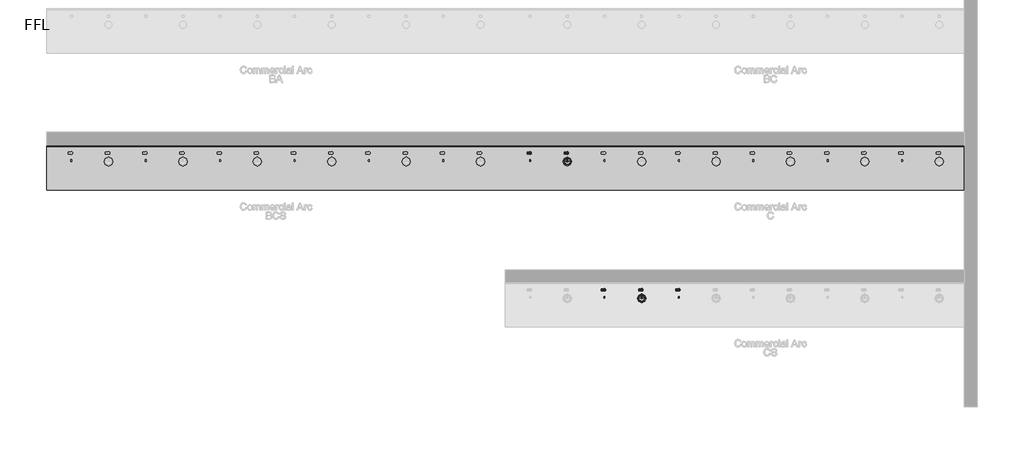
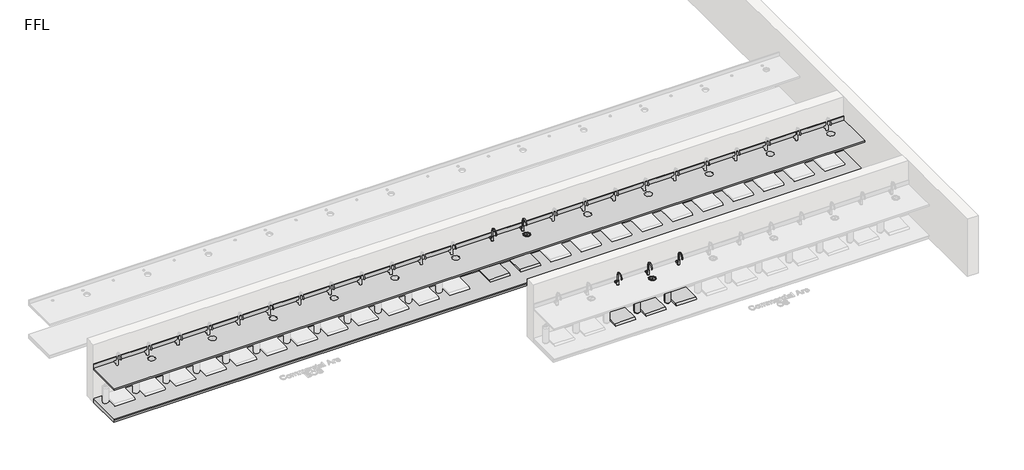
# One storey, part 2 of 10: 19 flow terminals, 2 furniture elements.
"""IFC4 building model written with IfcOpenShell, lengths in millimetres."""

from ifc_helpers import new_model, si_unit, frame, origin, place, context, project, spatial, polyline, circle_curve, transform, mapped, element, save
from ifc_brep_helpers import plane_surface, revolved_surface, advanced_brep
from components import flow_terminal_100_people_nickel_19c471c0, bright_chrome_743c02cf, bright_chrome_7ff5033f, co2_gas_cylinder_20234e14, bcs_and_bc_6de74493, generic_plinth_900mm_f287d53f

model = new_model("IFC4")

# Units and contexts
model_context = context("Model", 3, world=origin())
ifc_project = project(units=[si_unit("LENGTHUNIT", "METRE", prefix="MILLI")], contexts=[model_context])

# Site, building, storey
site = spatial("IfcSite", under=ifc_project)
building = spatial("IfcBuilding", under=site)
storey = spatial("IfcBuildingStorey", under=building, Name="FFL", Elevation=0.0)

# Flow terminals
placement = place(None, origin())
flow_terminal_100_people_nickel_shape = flow_terminal_100_people_nickel_19c471c0(model_context)
element("IfcFlowTerminal", 1, ObjectType="PlumFixt_Zip Commercial_Arc_CS : 100 People - Brushed Gold", at=placement, inside=storey, context=model_context, shape_type="MappedRepresentation", body=[
    mapped(flow_terminal_100_people_nickel_shape, transform((4279.2647071, -3457.2606696, 0.0), x_axis=(1.0, 0.0, 0.0), y_axis=(0.0, 1.0, 0.0), z_axis=(0.0, 0.0, 1.0))),
])
element("IfcFlowTerminal", 2, ObjectType="PlumFixt_Zip Commercial_Arc_CS : 100 People - Brushed Nickel", at=placement, inside=storey, context=model_context, shape_type="MappedRepresentation", body=[
    mapped(flow_terminal_100_people_nickel_shape, transform((5029.2647071, -3457.2606696, 0.0), x_axis=(1.0, 0.0, 0.0), y_axis=(0.0, 1.0, 0.0), z_axis=(0.0, 0.0, 1.0))),
])
element("IfcFlowTerminal", 3, ObjectType="PlumFixt_Zip Commercial_Arc_CS : 100 People - Brushed Rose Gold", at=placement, inside=storey, context=model_context, shape_type="MappedRepresentation", body=[
    mapped(flow_terminal_100_people_nickel_shape, transform((5779.2647071, -3457.2606696, 0.0), x_axis=(1.0, 0.0, 0.0), y_axis=(0.0, 1.0, 0.0), z_axis=(0.0, 0.0, 1.0))),
])
element("IfcFlowTerminal", 4, ObjectType="PlumFixt_Zip Commercial_Arc_C : 40 People - Bright Chrome", at=placement, inside=storey, context=model_context, shape_type="MappedRepresentation", body=[
    mapped(flow_terminal_100_people_nickel_shape, transform((2779.2647071, -697.2606696, 0.0), x_axis=(1.0, 0.0, 0.0), y_axis=(0.0, 1.0, 0.0), z_axis=(0.0, 0.0, 1.0))),
])
element("IfcFlowTerminal", 5, ObjectType="PlumFixt_Zip Commercial_Arc_C : 40 People - Brushed Chrome", at=placement, inside=storey, context=model_context, shape_type="MappedRepresentation", body=[
    mapped(flow_terminal_100_people_nickel_shape, transform((3529.2647071, -697.2606696, 0.0), x_axis=(1.0, 0.0, 0.0), y_axis=(0.0, 1.0, 0.0), z_axis=(0.0, 0.0, 1.0))),
])
bright_chrome_shape = bright_chrome_743c02cf(model_context)
element("IfcFlowTerminal", 6, ObjectType="z_PlumFixt_Zip_Font : Bright Chrome", at=placement, inside=storey, context=model_context, shape_type="MappedRepresentation", body=[
    mapped(bright_chrome_shape, transform((5029.2647071, -3528.7606696, 900.0), x_axis=(1.0000000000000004, 0.0, 0.0), y_axis=(0.0, 1.0000000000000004, 0.0), z_axis=(0.0, 0.0, 1.0))),
])
element("IfcFlowTerminal", 7, ObjectType="z_PlumFixt_Zip_Font : Bright Chrome", at=placement, inside=storey, context=model_context, shape_type="MappedRepresentation", body=[
    mapped(bright_chrome_shape, transform((3529.2647071, -768.7606696, 900.0), x_axis=(1.0000000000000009, 0.0, 0.0), y_axis=(0.0, 1.0000000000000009, 0.0), z_axis=(0.0, 0.0, 1.0))),
])
bright_chrome_2_shape = bright_chrome_7ff5033f(model_context)
element("IfcFlowTerminal", 8, ObjectType="z_PlumFixt_Zip_Arc : Brushed Gold", at=placement, inside=storey, context=model_context, shape_type="MappedRepresentation", body=[
    mapped(bright_chrome_2_shape, transform((4262.2647071, -3429.2606696, 900.0), x_axis=(1.0000000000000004, 0.0, 0.0), y_axis=(0.0, 1.0000000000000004, 0.0), z_axis=(0.0, 0.0, 1.0))),
])
element("IfcFlowTerminal", 9, ObjectType="z_PlumFixt_Zip_Arc : Brushed Nickel", at=placement, inside=storey, context=model_context, shape_type="MappedRepresentation", body=[
    mapped(bright_chrome_2_shape, transform((5012.2647071, -3429.2606696, 900.0), x_axis=(1.0000000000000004, 0.0, 0.0), y_axis=(0.0, 1.0000000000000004, 0.0), z_axis=(0.0, 0.0, 1.0))),
])
element("IfcFlowTerminal", 10, ObjectType="z_PlumFixt_Zip_Arc : Brushed Rose Gold", at=placement, inside=storey, context=model_context, shape_type="MappedRepresentation", body=[
    mapped(bright_chrome_2_shape, transform((5762.2647071, -3429.2606696, 900.0), x_axis=(1.0000000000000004, 0.0, 0.0), y_axis=(0.0, 1.0000000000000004, 0.0), z_axis=(0.0, 0.0, 1.0))),
])
co2_gas_cylinder_shape = co2_gas_cylinder_20234e14(model_context)
element("IfcFlowTerminal", 11, ObjectType="z_PlumFixt_Zip_CO2 Gas Cylinder : CO2 Gas Cylinder", at=placement, inside=storey, context=model_context, shape_type="MappedRepresentation", body=[
    mapped(co2_gas_cylinder_shape, transform((4691.2647071, -3536.7606696, 100.0), x_axis=(-1.0, 0.0, 0.0), y_axis=(0.0, -1.0, 0.0), z_axis=(0.0, 0.0, 1.0))),
])
element("IfcFlowTerminal", 12, ObjectType="z_PlumFixt_Zip_CO2 Gas Cylinder : CO2 Gas Cylinder", at=placement, inside=storey, context=model_context, shape_type="MappedRepresentation", body=[
    mapped(co2_gas_cylinder_shape, transform((5441.2647071, -3536.7606696, 100.0), x_axis=(-1.0, 0.0, 0.0), y_axis=(0.0, -1.0, 0.0), z_axis=(0.0, 0.0, 1.0))),
])
bcs_and_bc_shape = bcs_and_bc_6de74493(model_context)
element("IfcFlowTerminal", 13, ObjectType="z_PlumFixt_Zip_Vent Tray : CS and C", at=placement, inside=storey, context=model_context, shape_type="MappedRepresentation", body=[
    mapped(bcs_and_bc_shape, transform((2779.2647071, -574.2606696, 100.0), x_axis=(1.0, 0.0, 0.0), y_axis=(0.0, 1.0, 0.0), z_axis=(0.0, 0.0, 1.0))),
])
element("IfcFlowTerminal", 14, ObjectType="z_PlumFixt_Zip_Vent Tray : CS and C", at=placement, inside=storey, context=model_context, shape_type="MappedRepresentation", body=[
    mapped(bcs_and_bc_shape, transform((3529.2647071, -574.2606696, 100.0), x_axis=(1.0, 0.0, 0.0), y_axis=(0.0, 1.0, 0.0), z_axis=(0.0, 0.0, 1.0))),
])
element("IfcFlowTerminal", 15, ObjectType="z_PlumFixt_Zip_Vent Tray : CS and C", at=placement, inside=storey, context=model_context, shape_type="MappedRepresentation", body=[
    mapped(bcs_and_bc_shape, transform((4279.2647071, -3334.2606696, 100.0), x_axis=(1.0, 0.0, 0.0), y_axis=(0.0, 1.0, 0.0), z_axis=(0.0, 0.0, 1.0))),
])
element("IfcFlowTerminal", 16, ObjectType="z_PlumFixt_Zip_Vent Tray : CS and C", at=placement, inside=storey, context=model_context, shape_type="MappedRepresentation", body=[
    mapped(bcs_and_bc_shape, transform((5029.2647071, -3334.2606696, 100.0), x_axis=(1.0, 0.0, 0.0), y_axis=(0.0, 1.0, 0.0), z_axis=(0.0, 0.0, 1.0))),
])
element("IfcFlowTerminal", 17, ObjectType="z_PlumFixt_Zip_Vent Tray : CS and C", at=placement, inside=storey, context=model_context, shape_type="MappedRepresentation", body=[
    mapped(bcs_and_bc_shape, transform((5779.2647071, -3334.2606696, 100.0), x_axis=(1.0, 0.0, 0.0), y_axis=(0.0, 1.0, 0.0), z_axis=(0.0, 0.0, 1.0))),
])
element("IfcFlowTerminal", 18, ObjectType="z_PlumFixt_Zip_Arc : Gunmetal", at=placement, inside=storey, context=model_context, shape_type="MappedRepresentation", body=[
    mapped(bright_chrome_2_shape, transform((3512.2647071, -669.2606696, 900.0), x_axis=(1.0000000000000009, 0.0, 0.0), y_axis=(0.0, 1.0000000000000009, 0.0), z_axis=(0.0, 0.0, 1.0))),
])
element("IfcFlowTerminal", 19, ObjectType="z_PlumFixt_Zip_Arc : Gunmetal", at=placement, inside=storey, context=model_context, shape_type="MappedRepresentation", body=[
    mapped(bright_chrome_2_shape, transform((2762.2647071, -669.2606696, 900.0), x_axis=(1.0000000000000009, 0.0, 0.0), y_axis=(0.0, 1.0000000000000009, 0.0), z_axis=(0.0, 0.0, 1.0))),
])

# Furniture
element("IfcFurniture", 20, ObjectType="Counter Top : 900mm Depth", at=placement, inside=storey, context=model_context, shape_type="AdvancedBrep", body=[
    advanced_brep(
    [(-6969.7352929, -1331.7606696, 900.0), (11530.2647071, -1331.7606696, 900.0), (11530.2647071, -450.8106696, 900.0), (-6969.7352929, -450.8106696, 900.0), (-6493.7352929, -581.7606696, 900.0), (-6445.7352929, -581.7606696, 900.0), (2756.2647071, -581.7606696, 900.0), (2804.2647071, -581.7606696, 900.0), (-5743.7352929, -581.7606696, 900.0), (-5695.7352929, -581.7606696, 900.0), (-5651.5352929, -753.7503538, 900.0), (-5787.9352929, -753.7503538, 900.0), (-4993.7352929, -581.7606696, 900.0), (-4945.7352929, -581.7606696, 900.0), (-4243.7352929, -581.7606696, 900.0), (-4195.7352929, -581.7606696, 900.0), (-4151.5352929, -753.7503538, 900.0), (-4287.9352929, -753.7503538, 900.0), (-3493.7352929, -581.7606696, 900.0), (-3445.7352929, -581.7606696, 900.0), (-2743.7352929, -581.7606696, 900.0), (-2695.7352929, -581.7606696, 900.0), (-2651.5352929, -753.7503538, 900.0), (-2787.9352929, -753.7503538, 900.0), (-1993.7352929, -581.7606696, 900.0), (-1945.7352929, -581.7606696, 900.0), (-1243.7352929, -581.7606696, 900.0), (-1195.7352929, -581.7606696, 900.0), (-1151.5352929, -753.7503538, 900.0), (-1287.9352929, -753.7503538, 900.0), (-493.7352929, -581.7606696, 900.0), (-445.7352929, -581.7606696, 900.0), (256.2647071, -581.7606696, 900.0), (304.2647071, -581.7606696, 900.0), (348.4647071, -753.7503538, 900.0), (212.0647071, -753.7503538, 900.0), (1006.2647071, -581.7606696, 900.0), (1054.2647071, -581.7606696, 900.0), (1756.2647071, -581.7606696, 900.0), (1804.2647071, -581.7606696, 900.0), (1848.4647071, -753.7503538, 900.0), (1712.0647071, -753.7503538, 900.0), (3506.2647071, -581.7606696, 900.0), (3554.2647071, -581.7606696, 900.0), (3598.4647071, -753.7503538, 900.0), (3462.0647071, -753.7503538, 900.0), (4256.2647071, -581.7606696, 900.0), (4304.2647071, -581.7606696, 900.0), (5006.2647071, -581.7606696, 900.0), (5054.2647071, -581.7606696, 900.0), (5098.4647071, -753.7503538, 900.0), (4962.0647071, -753.7503538, 900.0), (5756.2647071, -581.7606696, 900.0), (5804.2647071, -581.7606696, 900.0), (6506.2647071, -581.7606696, 900.0), (6554.2647071, -581.7606696, 900.0), (6598.4647071, -753.7503538, 900.0), (6462.0647071, -753.7503538, 900.0), (7256.2647071, -581.7606696, 900.0), (7304.2647071, -581.7606696, 900.0), (8006.2647071, -581.7606696, 900.0), (8054.2647071, -581.7606696, 900.0), (8098.4647071, -753.7503538, 900.0), (7962.0647071, -753.7503538, 900.0), (8756.2647071, -581.7606696, 900.0), (8804.2647071, -581.7606696, 900.0), (9506.2647071, -581.7606696, 900.0), (9554.2647071, -581.7606696, 900.0), (9598.4647071, -753.7503538, 900.0), (9462.0647071, -753.7503538, 900.0), (10256.2647071, -581.7606696, 900.0), (10304.2647071, -581.7606696, 900.0), (11006.2647071, -581.7606696, 900.0), (11054.2647071, -581.7606696, 900.0), (11098.4647071, -753.7503538, 900.0), (10962.0647071, -753.7503538, 900.0), (11530.2647071, -431.7606696, 860.0), (11530.2647071, -1331.7606696, 860.0), (-6969.7352929, -1331.7606696, 860.0), (-6969.7352929, -431.7606696, 860.0), (-6445.7352929, -581.7606696, 860.0), (-6493.7352929, -581.7606696, 860.0), (2804.2647071, -581.7606696, 860.0), (2756.2647071, -581.7606696, 860.0), (-5695.7352929, -581.7606696, 860.0), (-5743.7352929, -581.7606696, 860.0), (-5787.9352929, -753.7503538, 860.0), (-5651.5352929, -753.7503538, 860.0), (-4945.7352929, -581.7606696, 860.0), (-4993.7352929, -581.7606696, 860.0), (-4195.7352929, -581.7606696, 860.0), (-4243.7352929, -581.7606696, 860.0), (-4287.9352929, -753.7503538, 860.0), (-4151.5352929, -753.7503538, 860.0), (-3445.7352929, -581.7606696, 860.0), (-3493.7352929, -581.7606696, 860.0), (-2695.7352929, -581.7606696, 860.0), (-2743.7352929, -581.7606696, 860.0), (-2787.9352929, -753.7503538, 860.0), (-2651.5352929, -753.7503538, 860.0), (-1945.7352929, -581.7606696, 860.0), (-1993.7352929, -581.7606696, 860.0), (-1195.7352929, -581.7606696, 860.0), (-1243.7352929, -581.7606696, 860.0), (-1287.9352929, -753.7503538, 860.0), (-1151.5352929, -753.7503538, 860.0), (-445.7352929, -581.7606696, 860.0), (-493.7352929, -581.7606696, 860.0), (304.2647071, -581.7606696, 860.0), (256.2647071, -581.7606696, 860.0), (212.0647071, -753.7503538, 860.0), (348.4647071, -753.7503538, 860.0), (1054.2647071, -581.7606696, 860.0), (1006.2647071, -581.7606696, 860.0), (1804.2647071, -581.7606696, 860.0), (1756.2647071, -581.7606696, 860.0), (1712.0647071, -753.7503538, 860.0), (1848.4647071, -753.7503538, 860.0), (3554.2647071, -581.7606696, 860.0), (3506.2647071, -581.7606696, 860.0), (3462.0647071, -753.7503538, 860.0), (3598.4647071, -753.7503538, 860.0), (4304.2647071, -581.7606696, 860.0), (4256.2647071, -581.7606696, 860.0), (5054.2647071, -581.7606696, 860.0), (5006.2647071, -581.7606696, 860.0), (4962.0647071, -753.7503538, 860.0), (5098.4647071, -753.7503538, 860.0), (5804.2647071, -581.7606696, 860.0), (5756.2647071, -581.7606696, 860.0), (6554.2647071, -581.7606696, 860.0), (6506.2647071, -581.7606696, 860.0), (6462.0647071, -753.7503538, 860.0), (6598.4647071, -753.7503538, 860.0), (7304.2647071, -581.7606696, 860.0), (7256.2647071, -581.7606696, 860.0), (8054.2647071, -581.7606696, 860.0), (8006.2647071, -581.7606696, 860.0), (7962.0647071, -753.7503538, 860.0), (8098.4647071, -753.7503538, 860.0), (8804.2647071, -581.7606696, 860.0), (8756.2647071, -581.7606696, 860.0), (9554.2647071, -581.7606696, 860.0), (9506.2647071, -581.7606696, 860.0), (9462.0647071, -753.7503538, 860.0), (9598.4647071, -753.7503538, 860.0), (10304.2647071, -581.7606696, 860.0), (10256.2647071, -581.7606696, 860.0), (11054.2647071, -581.7606696, 860.0), (11006.2647071, -581.7606696, 860.0), (10962.0647071, -753.7503538, 860.0), (11098.4647071, -753.7503538, 860.0), (-6969.7352929, -431.7606696, 1001.6), (11530.2647071, -431.7606696, 1001.6), (-6969.7352929, -450.8106696, 1001.6), (11530.2647071, -450.8106696, 1001.6)],
    [
        (0, 1),
        (1, 2),
        (2, 3),
        (3, 0),
        (4, 5, circle_curve(frame((-6469.7352929, -581.7606696, 900.0), z_axis=(0.0, 0.0, -1.0), x_axis=(-1.0000000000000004, 0.0, 0.0)), 24.0)),
        (5, 4, circle_curve(frame((-6469.7352929, -581.7606696, 900.0), z_axis=(0.0, 0.0, -1.0), x_axis=(-1.0000000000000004, 0.0, 0.0)), 24.0)),
        (6, 7, circle_curve(frame((2780.2647071, -581.7606696, 900.0), z_axis=(0.0, 0.0, -1.0), x_axis=(-1.0000000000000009, 0.0, 0.0)), 24.0)),
        (7, 6, circle_curve(frame((2780.2647071, -581.7606696, 900.0), z_axis=(0.0, 0.0, -1.0), x_axis=(-1.0000000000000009, 0.0, 0.0)), 24.0)),
        (8, 9, circle_curve(frame((-5719.7352929, -581.7606696, 900.0), z_axis=(0.0, 0.0, -1.0), x_axis=(-1.0000000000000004, 0.0, 0.0)), 24.0)),
        (9, 8, circle_curve(frame((-5719.7352929, -581.7606696, 900.0), z_axis=(0.0, 0.0, -1.0), x_axis=(-1.0000000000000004, 0.0, 0.0)), 24.0)),
        (10, 11, circle_curve(frame((-5719.7352929, -753.7503538, 900.0), z_axis=(0.0, 0.0, -1.0), x_axis=(-1.0000000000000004, 0.0, 0.0)), 68.2)),
        (11, 10, circle_curve(frame((-5719.7352929, -753.7503538, 900.0), z_axis=(0.0, 0.0, -1.0), x_axis=(-1.0000000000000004, 0.0, 0.0)), 68.2)),
        (12, 13, circle_curve(frame((-4969.7352929, -581.7606696, 900.0), z_axis=(0.0, 0.0, -1.0), x_axis=(-1.0000000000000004, 0.0, 0.0)), 24.0)),
        (13, 12, circle_curve(frame((-4969.7352929, -581.7606696, 900.0), z_axis=(0.0, 0.0, -1.0), x_axis=(-1.0000000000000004, 0.0, 0.0)), 24.0)),
        (14, 15, circle_curve(frame((-4219.7352929, -581.7606696, 900.0), z_axis=(0.0, 0.0, -1.0), x_axis=(-1.0000000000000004, 0.0, 0.0)), 24.0)),
        (15, 14, circle_curve(frame((-4219.7352929, -581.7606696, 900.0), z_axis=(0.0, 0.0, -1.0), x_axis=(-1.0000000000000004, 0.0, 0.0)), 24.0)),
        (16, 17, circle_curve(frame((-4219.7352929, -753.7503538, 900.0), z_axis=(0.0, 0.0, -1.0), x_axis=(-1.0000000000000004, 0.0, 0.0)), 68.2)),
        (17, 16, circle_curve(frame((-4219.7352929, -753.7503538, 900.0), z_axis=(0.0, 0.0, -1.0), x_axis=(-1.0000000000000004, 0.0, 0.0)), 68.2)),
        (18, 19, circle_curve(frame((-3469.7352929, -581.7606696, 900.0), z_axis=(0.0, 0.0, -1.0), x_axis=(-1.0000000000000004, 0.0, 0.0)), 24.0)),
        (19, 18, circle_curve(frame((-3469.7352929, -581.7606696, 900.0), z_axis=(0.0, 0.0, -1.0), x_axis=(-1.0000000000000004, 0.0, 0.0)), 24.0)),
        (20, 21, circle_curve(frame((-2719.7352929, -581.7606696, 900.0), z_axis=(0.0, 0.0, -1.0), x_axis=(-1.0000000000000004, 0.0, 0.0)), 24.0)),
        (21, 20, circle_curve(frame((-2719.7352929, -581.7606696, 900.0), z_axis=(0.0, 0.0, -1.0), x_axis=(-1.0000000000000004, 0.0, 0.0)), 24.0)),
        (22, 23, circle_curve(frame((-2719.7352929, -753.7503538, 900.0), z_axis=(0.0, 0.0, -1.0), x_axis=(-1.0000000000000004, 0.0, 0.0)), 68.2)),
        (23, 22, circle_curve(frame((-2719.7352929, -753.7503538, 900.0), z_axis=(0.0, 0.0, -1.0), x_axis=(-1.0000000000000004, 0.0, 0.0)), 68.2)),
        (24, 25, circle_curve(frame((-1969.7352929, -581.7606696, 900.0), z_axis=(0.0, 0.0, -1.0), x_axis=(-1.0000000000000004, 0.0, 0.0)), 24.0)),
        (25, 24, circle_curve(frame((-1969.7352929, -581.7606696, 900.0), z_axis=(0.0, 0.0, -1.0), x_axis=(-1.0000000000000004, 0.0, 0.0)), 24.0)),
        (26, 27, circle_curve(frame((-1219.7352929, -581.7606696, 900.0), z_axis=(0.0, 0.0, -1.0), x_axis=(-1.0000000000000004, 0.0, 0.0)), 24.0)),
        (27, 26, circle_curve(frame((-1219.7352929, -581.7606696, 900.0), z_axis=(0.0, 0.0, -1.0), x_axis=(-1.0000000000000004, 0.0, 0.0)), 24.0)),
        (28, 29, circle_curve(frame((-1219.7352929, -753.7503538, 900.0), z_axis=(0.0, 0.0, -1.0), x_axis=(-1.0000000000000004, 0.0, 0.0)), 68.2)),
        (29, 28, circle_curve(frame((-1219.7352929, -753.7503538, 900.0), z_axis=(0.0, 0.0, -1.0), x_axis=(-1.0000000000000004, 0.0, 0.0)), 68.2)),
        (30, 31, circle_curve(frame((-469.7352929, -581.7606696, 900.0), z_axis=(0.0, 0.0, -1.0), x_axis=(-1.0000000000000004, 0.0, 0.0)), 24.0)),
        (31, 30, circle_curve(frame((-469.7352929, -581.7606696, 900.0), z_axis=(0.0, 0.0, -1.0), x_axis=(-1.0000000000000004, 0.0, 0.0)), 24.0)),
        (32, 33, circle_curve(frame((280.2647071, -581.7606696, 900.0), z_axis=(0.0, 0.0, -1.0), x_axis=(-1.0000000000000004, 0.0, 0.0)), 24.0)),
        (33, 32, circle_curve(frame((280.2647071, -581.7606696, 900.0), z_axis=(0.0, 0.0, -1.0), x_axis=(-1.0000000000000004, 0.0, 0.0)), 24.0)),
        (34, 35, circle_curve(frame((280.2647071, -753.7503538, 900.0), z_axis=(0.0, 0.0, -1.0), x_axis=(-1.0000000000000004, 0.0, 0.0)), 68.2)),
        (35, 34, circle_curve(frame((280.2647071, -753.7503538, 900.0), z_axis=(0.0, 0.0, -1.0), x_axis=(-1.0000000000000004, 0.0, 0.0)), 68.2)),
        (36, 37, circle_curve(frame((1030.2647071, -581.7606696, 900.0), z_axis=(0.0, 0.0, -1.0), x_axis=(-1.0000000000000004, 0.0, 0.0)), 24.0)),
        (37, 36, circle_curve(frame((1030.2647071, -581.7606696, 900.0), z_axis=(0.0, 0.0, -1.0), x_axis=(-1.0000000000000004, 0.0, 0.0)), 24.0)),
        (38, 39, circle_curve(frame((1780.2647071, -581.7606696, 900.0), z_axis=(0.0, 0.0, -1.0), x_axis=(-1.0000000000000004, 0.0, 0.0)), 24.0)),
        (39, 38, circle_curve(frame((1780.2647071, -581.7606696, 900.0), z_axis=(0.0, 0.0, -1.0), x_axis=(-1.0000000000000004, 0.0, 0.0)), 24.0)),
        (40, 41, circle_curve(frame((1780.2647071, -753.7503538, 900.0), z_axis=(0.0, 0.0, -1.0), x_axis=(-1.0000000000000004, 0.0, 0.0)), 68.2)),
        (41, 40, circle_curve(frame((1780.2647071, -753.7503538, 900.0), z_axis=(0.0, 0.0, -1.0), x_axis=(-1.0000000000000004, 0.0, 0.0)), 68.2)),
        (42, 43, circle_curve(frame((3530.2647071, -581.7606696, 900.0), z_axis=(0.0, 0.0, -1.0), x_axis=(-1.0000000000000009, 0.0, 0.0)), 24.0)),
        (43, 42, circle_curve(frame((3530.2647071, -581.7606696, 900.0), z_axis=(0.0, 0.0, -1.0), x_axis=(-1.0000000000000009, 0.0, 0.0)), 24.0)),
        (44, 45, circle_curve(frame((3530.2647071, -753.7503538, 900.0), z_axis=(0.0, 0.0, -1.0), x_axis=(-1.0000000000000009, 0.0, 0.0)), 68.2)),
        (45, 44, circle_curve(frame((3530.2647071, -753.7503538, 900.0), z_axis=(0.0, 0.0, -1.0), x_axis=(-1.0000000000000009, 0.0, 0.0)), 68.2)),
        (46, 47, circle_curve(frame((4280.2647071, -581.7606696, 900.0), z_axis=(0.0, 0.0, -1.0), x_axis=(-1.0000000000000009, 0.0, 0.0)), 24.0)),
        (47, 46, circle_curve(frame((4280.2647071, -581.7606696, 900.0), z_axis=(0.0, 0.0, -1.0), x_axis=(-1.0000000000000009, 0.0, 0.0)), 24.0)),
        (48, 49, circle_curve(frame((5030.2647071, -581.7606696, 900.0), z_axis=(0.0, 0.0, -1.0), x_axis=(-1.0000000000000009, 0.0, 0.0)), 24.0)),
        (49, 48, circle_curve(frame((5030.2647071, -581.7606696, 900.0), z_axis=(0.0, 0.0, -1.0), x_axis=(-1.0000000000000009, 0.0, 0.0)), 24.0)),
        (50, 51, circle_curve(frame((5030.2647071, -753.7503538, 900.0), z_axis=(0.0, 0.0, -1.0), x_axis=(-1.0000000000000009, 0.0, 0.0)), 68.2)),
        (51, 50, circle_curve(frame((5030.2647071, -753.7503538, 900.0), z_axis=(0.0, 0.0, -1.0), x_axis=(-1.0000000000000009, 0.0, 0.0)), 68.2)),
        (52, 53, circle_curve(frame((5780.2647071, -581.7606696, 900.0), z_axis=(0.0, 0.0, -1.0), x_axis=(-1.0000000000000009, 0.0, 0.0)), 24.0)),
        (53, 52, circle_curve(frame((5780.2647071, -581.7606696, 900.0), z_axis=(0.0, 0.0, -1.0), x_axis=(-1.0000000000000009, 0.0, 0.0)), 24.0)),
        (54, 55, circle_curve(frame((6530.2647071, -581.7606696, 900.0), z_axis=(0.0, 0.0, -1.0), x_axis=(-1.0000000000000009, 0.0, 0.0)), 24.0)),
        (55, 54, circle_curve(frame((6530.2647071, -581.7606696, 900.0), z_axis=(0.0, 0.0, -1.0), x_axis=(-1.0000000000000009, 0.0, 0.0)), 24.0)),
        (56, 57, circle_curve(frame((6530.2647071, -753.7503538, 900.0), z_axis=(0.0, 0.0, -1.0), x_axis=(-1.0000000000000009, 0.0, 0.0)), 68.2)),
        (57, 56, circle_curve(frame((6530.2647071, -753.7503538, 900.0), z_axis=(0.0, 0.0, -1.0), x_axis=(-1.0000000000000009, 0.0, 0.0)), 68.2)),
        (58, 59, circle_curve(frame((7280.2647071, -581.7606696, 900.0), z_axis=(0.0, 0.0, -1.0), x_axis=(-1.0000000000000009, 0.0, 0.0)), 24.0)),
        (59, 58, circle_curve(frame((7280.2647071, -581.7606696, 900.0), z_axis=(0.0, 0.0, -1.0), x_axis=(-1.0000000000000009, 0.0, 0.0)), 24.0)),
        (60, 61, circle_curve(frame((8030.2647071, -581.7606696, 900.0), z_axis=(0.0, 0.0, -1.0), x_axis=(-1.0000000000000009, 0.0, 0.0)), 24.0)),
        (61, 60, circle_curve(frame((8030.2647071, -581.7606696, 900.0), z_axis=(0.0, 0.0, -1.0), x_axis=(-1.0000000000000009, 0.0, 0.0)), 24.0)),
        (62, 63, circle_curve(frame((8030.2647071, -753.7503538, 900.0), z_axis=(0.0, 0.0, -1.0), x_axis=(-1.0000000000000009, 0.0, 0.0)), 68.2)),
        (63, 62, circle_curve(frame((8030.2647071, -753.7503538, 900.0), z_axis=(0.0, 0.0, -1.0), x_axis=(-1.0000000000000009, 0.0, 0.0)), 68.2)),
        (64, 65, circle_curve(frame((8780.2647071, -581.7606696, 900.0), z_axis=(0.0, 0.0, -1.0), x_axis=(-1.0000000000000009, 0.0, 0.0)), 24.0)),
        (65, 64, circle_curve(frame((8780.2647071, -581.7606696, 900.0), z_axis=(0.0, 0.0, -1.0), x_axis=(-1.0000000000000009, 0.0, 0.0)), 24.0)),
        (66, 67, circle_curve(frame((9530.2647071, -581.7606696, 900.0), z_axis=(0.0, 0.0, -1.0), x_axis=(-1.0000000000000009, 0.0, 0.0)), 24.0)),
        (67, 66, circle_curve(frame((9530.2647071, -581.7606696, 900.0), z_axis=(0.0, 0.0, -1.0), x_axis=(-1.0000000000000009, 0.0, 0.0)), 24.0)),
        (68, 69, circle_curve(frame((9530.2647071, -753.7503538, 900.0), z_axis=(0.0, 0.0, -1.0), x_axis=(-1.0000000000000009, 0.0, 0.0)), 68.2)),
        (69, 68, circle_curve(frame((9530.2647071, -753.7503538, 900.0), z_axis=(0.0, 0.0, -1.0), x_axis=(-1.0000000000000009, 0.0, 0.0)), 68.2)),
        (70, 71, circle_curve(frame((10280.2647071, -581.7606696, 900.0), z_axis=(0.0, 0.0, -1.0), x_axis=(-1.0000000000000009, 0.0, 0.0)), 24.0)),
        (71, 70, circle_curve(frame((10280.2647071, -581.7606696, 900.0), z_axis=(0.0, 0.0, -1.0), x_axis=(-1.0000000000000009, 0.0, 0.0)), 24.0)),
        (72, 73, circle_curve(frame((11030.2647071, -581.7606696, 900.0), z_axis=(0.0, 0.0, -1.0), x_axis=(-1.0000000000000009, 0.0, 0.0)), 24.0)),
        (73, 72, circle_curve(frame((11030.2647071, -581.7606696, 900.0), z_axis=(0.0, 0.0, -1.0), x_axis=(-1.0000000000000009, 0.0, 0.0)), 24.0)),
        (74, 75, circle_curve(frame((11030.2647071, -753.7503538, 900.0), z_axis=(0.0, 0.0, -1.0), x_axis=(-1.0000000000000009, 0.0, 0.0)), 68.2)),
        (75, 74, circle_curve(frame((11030.2647071, -753.7503538, 900.0), z_axis=(0.0, 0.0, -1.0), x_axis=(-1.0000000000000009, 0.0, 0.0)), 68.2)),
        (76, 77),
        (77, 78),
        (78, 79),
        (79, 76),
        (80, 81, circle_curve(frame((-6469.7352929, -581.7606696, 860.0), z_axis=(0.0, 0.0, 1.0), x_axis=(-1.0000000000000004, 0.0, 0.0)), 24.0)),
        (81, 80, circle_curve(frame((-6469.7352929, -581.7606696, 860.0), z_axis=(0.0, 0.0, 1.0), x_axis=(-1.0000000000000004, 0.0, 0.0)), 24.0)),
        (82, 83, circle_curve(frame((2780.2647071, -581.7606696, 860.0), z_axis=(0.0, 0.0, 1.0), x_axis=(-1.0000000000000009, 0.0, 0.0)), 24.0)),
        (83, 82, circle_curve(frame((2780.2647071, -581.7606696, 860.0), z_axis=(0.0, 0.0, 1.0), x_axis=(-1.0000000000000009, 0.0, 0.0)), 24.0)),
        (84, 85, circle_curve(frame((-5719.7352929, -581.7606696, 860.0), z_axis=(0.0, 0.0, 1.0), x_axis=(-1.0000000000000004, 0.0, 0.0)), 24.0)),
        (85, 84, circle_curve(frame((-5719.7352929, -581.7606696, 860.0), z_axis=(0.0, 0.0, 1.0), x_axis=(-1.0000000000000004, 0.0, 0.0)), 24.0)),
        (86, 87, circle_curve(frame((-5719.7352929, -753.7503538, 860.0), z_axis=(0.0, 0.0, 1.0), x_axis=(-1.0000000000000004, 0.0, 0.0)), 68.2)),
        (87, 86, circle_curve(frame((-5719.7352929, -753.7503538, 860.0), z_axis=(0.0, 0.0, 1.0), x_axis=(-1.0000000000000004, 0.0, 0.0)), 68.2)),
        (88, 89, circle_curve(frame((-4969.7352929, -581.7606696, 860.0), z_axis=(0.0, 0.0, 1.0), x_axis=(-1.0000000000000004, 0.0, 0.0)), 24.0)),
        (89, 88, circle_curve(frame((-4969.7352929, -581.7606696, 860.0), z_axis=(0.0, 0.0, 1.0), x_axis=(-1.0000000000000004, 0.0, 0.0)), 24.0)),
        (90, 91, circle_curve(frame((-4219.7352929, -581.7606696, 860.0), z_axis=(0.0, 0.0, 1.0), x_axis=(-1.0000000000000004, 0.0, 0.0)), 24.0)),
        (91, 90, circle_curve(frame((-4219.7352929, -581.7606696, 860.0), z_axis=(0.0, 0.0, 1.0), x_axis=(-1.0000000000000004, 0.0, 0.0)), 24.0)),
        (92, 93, circle_curve(frame((-4219.7352929, -753.7503538, 860.0), z_axis=(0.0, 0.0, 1.0), x_axis=(-1.0000000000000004, 0.0, 0.0)), 68.2)),
        (93, 92, circle_curve(frame((-4219.7352929, -753.7503538, 860.0), z_axis=(0.0, 0.0, 1.0), x_axis=(-1.0000000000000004, 0.0, 0.0)), 68.2)),
        (94, 95, circle_curve(frame((-3469.7352929, -581.7606696, 860.0), z_axis=(0.0, 0.0, 1.0), x_axis=(-1.0000000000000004, 0.0, 0.0)), 24.0)),
        (95, 94, circle_curve(frame((-3469.7352929, -581.7606696, 860.0), z_axis=(0.0, 0.0, 1.0), x_axis=(-1.0000000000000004, 0.0, 0.0)), 24.0)),
        (96, 97, circle_curve(frame((-2719.7352929, -581.7606696, 860.0), z_axis=(0.0, 0.0, 1.0), x_axis=(-1.0000000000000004, 0.0, 0.0)), 24.0)),
        (97, 96, circle_curve(frame((-2719.7352929, -581.7606696, 860.0), z_axis=(0.0, 0.0, 1.0), x_axis=(-1.0000000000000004, 0.0, 0.0)), 24.0)),
        (98, 99, circle_curve(frame((-2719.7352929, -753.7503538, 860.0), z_axis=(0.0, 0.0, 1.0), x_axis=(-1.0000000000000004, 0.0, 0.0)), 68.2)),
        (99, 98, circle_curve(frame((-2719.7352929, -753.7503538, 860.0), z_axis=(0.0, 0.0, 1.0), x_axis=(-1.0000000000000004, 0.0, 0.0)), 68.2)),
        (100, 101, circle_curve(frame((-1969.7352929, -581.7606696, 860.0), z_axis=(0.0, 0.0, 1.0), x_axis=(-1.0000000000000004, 0.0, 0.0)), 24.0)),
        (101, 100, circle_curve(frame((-1969.7352929, -581.7606696, 860.0), z_axis=(0.0, 0.0, 1.0), x_axis=(-1.0000000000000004, 0.0, 0.0)), 24.0)),
        (102, 103, circle_curve(frame((-1219.7352929, -581.7606696, 860.0), z_axis=(0.0, 0.0, 1.0), x_axis=(-1.0000000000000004, 0.0, 0.0)), 24.0)),
        (103, 102, circle_curve(frame((-1219.7352929, -581.7606696, 860.0), z_axis=(0.0, 0.0, 1.0), x_axis=(-1.0000000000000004, 0.0, 0.0)), 24.0)),
        (104, 105, circle_curve(frame((-1219.7352929, -753.7503538, 860.0), z_axis=(0.0, 0.0, 1.0), x_axis=(-1.0000000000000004, 0.0, 0.0)), 68.2)),
        (105, 104, circle_curve(frame((-1219.7352929, -753.7503538, 860.0), z_axis=(0.0, 0.0, 1.0), x_axis=(-1.0000000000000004, 0.0, 0.0)), 68.2)),
        (106, 107, circle_curve(frame((-469.7352929, -581.7606696, 860.0), z_axis=(0.0, 0.0, 1.0), x_axis=(-1.0000000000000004, 0.0, 0.0)), 24.0)),
        (107, 106, circle_curve(frame((-469.7352929, -581.7606696, 860.0), z_axis=(0.0, 0.0, 1.0), x_axis=(-1.0000000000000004, 0.0, 0.0)), 24.0)),
        (108, 109, circle_curve(frame((280.2647071, -581.7606696, 860.0), z_axis=(0.0, 0.0, 1.0), x_axis=(-1.0000000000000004, 0.0, 0.0)), 24.0)),
        (109, 108, circle_curve(frame((280.2647071, -581.7606696, 860.0), z_axis=(0.0, 0.0, 1.0), x_axis=(-1.0000000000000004, 0.0, 0.0)), 24.0)),
        (110, 111, circle_curve(frame((280.2647071, -753.7503538, 860.0), z_axis=(0.0, 0.0, 1.0), x_axis=(-1.0000000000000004, 0.0, 0.0)), 68.2)),
        (111, 110, circle_curve(frame((280.2647071, -753.7503538, 860.0), z_axis=(0.0, 0.0, 1.0), x_axis=(-1.0000000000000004, 0.0, 0.0)), 68.2)),
        (112, 113, circle_curve(frame((1030.2647071, -581.7606696, 860.0), z_axis=(0.0, 0.0, 1.0), x_axis=(-1.0000000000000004, 0.0, 0.0)), 24.0)),
        (113, 112, circle_curve(frame((1030.2647071, -581.7606696, 860.0), z_axis=(0.0, 0.0, 1.0), x_axis=(-1.0000000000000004, 0.0, 0.0)), 24.0)),
        (114, 115, circle_curve(frame((1780.2647071, -581.7606696, 860.0), z_axis=(0.0, 0.0, 1.0), x_axis=(-1.0000000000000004, 0.0, 0.0)), 24.0)),
        (115, 114, circle_curve(frame((1780.2647071, -581.7606696, 860.0), z_axis=(0.0, 0.0, 1.0), x_axis=(-1.0000000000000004, 0.0, 0.0)), 24.0)),
        (116, 117, circle_curve(frame((1780.2647071, -753.7503538, 860.0), z_axis=(0.0, 0.0, 1.0), x_axis=(-1.0000000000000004, 0.0, 0.0)), 68.2)),
        (117, 116, circle_curve(frame((1780.2647071, -753.7503538, 860.0), z_axis=(0.0, 0.0, 1.0), x_axis=(-1.0000000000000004, 0.0, 0.0)), 68.2)),
        (118, 119, circle_curve(frame((3530.2647071, -581.7606696, 860.0), z_axis=(0.0, 0.0, 1.0), x_axis=(-1.0000000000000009, 0.0, 0.0)), 24.0)),
        (119, 118, circle_curve(frame((3530.2647071, -581.7606696, 860.0), z_axis=(0.0, 0.0, 1.0), x_axis=(-1.0000000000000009, 0.0, 0.0)), 24.0)),
        (120, 121, circle_curve(frame((3530.2647071, -753.7503538, 860.0), z_axis=(0.0, 0.0, 1.0), x_axis=(-1.0000000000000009, 0.0, 0.0)), 68.2)),
        (121, 120, circle_curve(frame((3530.2647071, -753.7503538, 860.0), z_axis=(0.0, 0.0, 1.0), x_axis=(-1.0000000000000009, 0.0, 0.0)), 68.2)),
        (122, 123, circle_curve(frame((4280.2647071, -581.7606696, 860.0), z_axis=(0.0, 0.0, 1.0), x_axis=(-1.0000000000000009, 0.0, 0.0)), 24.0)),
        (123, 122, circle_curve(frame((4280.2647071, -581.7606696, 860.0), z_axis=(0.0, 0.0, 1.0), x_axis=(-1.0000000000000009, 0.0, 0.0)), 24.0)),
        (124, 125, circle_curve(frame((5030.2647071, -581.7606696, 860.0), z_axis=(0.0, 0.0, 1.0), x_axis=(-1.0000000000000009, 0.0, 0.0)), 24.0)),
        (125, 124, circle_curve(frame((5030.2647071, -581.7606696, 860.0), z_axis=(0.0, 0.0, 1.0), x_axis=(-1.0000000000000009, 0.0, 0.0)), 24.0)),
        (126, 127, circle_curve(frame((5030.2647071, -753.7503538, 860.0), z_axis=(0.0, 0.0, 1.0), x_axis=(-1.0000000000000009, 0.0, 0.0)), 68.2)),
        (127, 126, circle_curve(frame((5030.2647071, -753.7503538, 860.0), z_axis=(0.0, 0.0, 1.0), x_axis=(-1.0000000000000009, 0.0, 0.0)), 68.2)),
        (128, 129, circle_curve(frame((5780.2647071, -581.7606696, 860.0), z_axis=(0.0, 0.0, 1.0), x_axis=(-1.0000000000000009, 0.0, 0.0)), 24.0)),
        (129, 128, circle_curve(frame((5780.2647071, -581.7606696, 860.0), z_axis=(0.0, 0.0, 1.0), x_axis=(-1.0000000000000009, 0.0, 0.0)), 24.0)),
        (130, 131, circle_curve(frame((6530.2647071, -581.7606696, 860.0), z_axis=(0.0, 0.0, 1.0), x_axis=(-1.0000000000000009, 0.0, 0.0)), 24.0)),
        (131, 130, circle_curve(frame((6530.2647071, -581.7606696, 860.0), z_axis=(0.0, 0.0, 1.0), x_axis=(-1.0000000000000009, 0.0, 0.0)), 24.0)),
        (132, 133, circle_curve(frame((6530.2647071, -753.7503538, 860.0), z_axis=(0.0, 0.0, 1.0), x_axis=(-1.0000000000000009, 0.0, 0.0)), 68.2)),
        (133, 132, circle_curve(frame((6530.2647071, -753.7503538, 860.0), z_axis=(0.0, 0.0, 1.0), x_axis=(-1.0000000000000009, 0.0, 0.0)), 68.2)),
        (134, 135, circle_curve(frame((7280.2647071, -581.7606696, 860.0), z_axis=(0.0, 0.0, 1.0), x_axis=(-1.0000000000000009, 0.0, 0.0)), 24.0)),
        (135, 134, circle_curve(frame((7280.2647071, -581.7606696, 860.0), z_axis=(0.0, 0.0, 1.0), x_axis=(-1.0000000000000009, 0.0, 0.0)), 24.0)),
        (136, 137, circle_curve(frame((8030.2647071, -581.7606696, 860.0), z_axis=(0.0, 0.0, 1.0), x_axis=(-1.0000000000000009, 0.0, 0.0)), 24.0)),
        (137, 136, circle_curve(frame((8030.2647071, -581.7606696, 860.0), z_axis=(0.0, 0.0, 1.0), x_axis=(-1.0000000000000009, 0.0, 0.0)), 24.0)),
        (138, 139, circle_curve(frame((8030.2647071, -753.7503538, 860.0), z_axis=(0.0, 0.0, 1.0), x_axis=(-1.0000000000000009, 0.0, 0.0)), 68.2)),
        (139, 138, circle_curve(frame((8030.2647071, -753.7503538, 860.0), z_axis=(0.0, 0.0, 1.0), x_axis=(-1.0000000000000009, 0.0, 0.0)), 68.2)),
        (140, 141, circle_curve(frame((8780.2647071, -581.7606696, 860.0), z_axis=(0.0, 0.0, 1.0), x_axis=(-1.0000000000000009, 0.0, 0.0)), 24.0)),
        (141, 140, circle_curve(frame((8780.2647071, -581.7606696, 860.0), z_axis=(0.0, 0.0, 1.0), x_axis=(-1.0000000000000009, 0.0, 0.0)), 24.0)),
        (142, 143, circle_curve(frame((9530.2647071, -581.7606696, 860.0), z_axis=(0.0, 0.0, 1.0), x_axis=(-1.0000000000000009, 0.0, 0.0)), 24.0)),
        (143, 142, circle_curve(frame((9530.2647071, -581.7606696, 860.0), z_axis=(0.0, 0.0, 1.0), x_axis=(-1.0000000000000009, 0.0, 0.0)), 24.0)),
        (144, 145, circle_curve(frame((9530.2647071, -753.7503538, 860.0), z_axis=(0.0, 0.0, 1.0), x_axis=(-1.0000000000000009, 0.0, 0.0)), 68.2)),
        (145, 144, circle_curve(frame((9530.2647071, -753.7503538, 860.0), z_axis=(0.0, 0.0, 1.0), x_axis=(-1.0000000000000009, 0.0, 0.0)), 68.2)),
        (146, 147, circle_curve(frame((10280.2647071, -581.7606696, 860.0), z_axis=(0.0, 0.0, 1.0), x_axis=(-1.0000000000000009, 0.0, 0.0)), 24.0)),
        (147, 146, circle_curve(frame((10280.2647071, -581.7606696, 860.0), z_axis=(0.0, 0.0, 1.0), x_axis=(-1.0000000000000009, 0.0, 0.0)), 24.0)),
        (148, 149, circle_curve(frame((11030.2647071, -581.7606696, 860.0), z_axis=(0.0, 0.0, 1.0), x_axis=(-1.0000000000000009, 0.0, 0.0)), 24.0)),
        (149, 148, circle_curve(frame((11030.2647071, -581.7606696, 860.0), z_axis=(0.0, 0.0, 1.0), x_axis=(-1.0000000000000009, 0.0, 0.0)), 24.0)),
        (150, 151, circle_curve(frame((11030.2647071, -753.7503538, 860.0), z_axis=(0.0, 0.0, 1.0), x_axis=(-1.0000000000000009, 0.0, 0.0)), 68.2)),
        (151, 150, circle_curve(frame((11030.2647071, -753.7503538, 860.0), z_axis=(0.0, 0.0, 1.0), x_axis=(-1.0000000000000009, 0.0, 0.0)), 68.2)),
        (79, 152),
        (152, 153),
        (153, 76),
        (3, 154),
        (154, 152),
        (78, 0),
        (77, 1),
        (153, 155),
        (155, 2),
        (154, 155),
        (80, 5),
        (4, 81),
        (82, 7),
        (6, 83),
        (84, 9),
        (8, 85),
        (86, 11),
        (10, 87),
        (88, 13),
        (12, 89),
        (90, 15),
        (14, 91),
        (92, 17),
        (16, 93),
        (94, 19),
        (18, 95),
        (96, 21),
        (20, 97),
        (98, 23),
        (22, 99),
        (100, 25),
        (24, 101),
        (102, 27),
        (26, 103),
        (104, 29),
        (28, 105),
        (106, 31),
        (30, 107),
        (108, 33),
        (32, 109),
        (110, 35),
        (34, 111),
        (112, 37),
        (36, 113),
        (114, 39),
        (38, 115),
        (116, 41),
        (40, 117),
        (118, 43),
        (42, 119),
        (120, 45),
        (44, 121),
        (122, 47),
        (46, 123),
        (124, 49),
        (48, 125),
        (126, 51),
        (50, 127),
        (128, 53),
        (52, 129),
        (130, 55),
        (54, 131),
        (132, 57),
        (56, 133),
        (134, 59),
        (58, 135),
        (136, 61),
        (60, 137),
        (138, 63),
        (62, 139),
        (140, 65),
        (64, 141),
        (142, 67),
        (66, 143),
        (144, 69),
        (68, 145),
        (146, 71),
        (70, 147),
        (148, 73),
        (72, 149),
        (150, 75),
        (74, 151),
    ],
    [
        plane_surface(frame((-6969.7352929, -431.7606696, 900.0), z_axis=(0.0, 0.0, 1.0), x_axis=(-1.0, 0.0, 0.0))),
        plane_surface(frame((-6969.7352929, -431.7606696, 860.0), z_axis=(0.0, 0.0, -1.0), x_axis=(1.0, 0.0, 0.0))),
        plane_surface(frame((11530.2647071, -431.7606696, 900.0), z_axis=(0.0, 1.0, 0.0), x_axis=(0.0, 0.0, -1.0))),
        plane_surface(frame((-6969.7352929, -431.7606696, 900.0), z_axis=(-1.0, 0.0, 0.0), x_axis=(0.0, 0.0, -1.0))),
        plane_surface(frame((-6969.7352929, -1331.7606696, 900.0), z_axis=(0.0, -1.0, 0.0), x_axis=(0.0, 0.0, -1.0))),
        plane_surface(frame((11530.2647071, -1331.7606696, 900.0), z_axis=(1.0, 0.0, 0.0), x_axis=(0.0, 0.0, -1.0))),
        plane_surface(frame((-6969.7352929, -431.7606696, 1001.6), z_axis=(0.0, 0.0, 1.0), x_axis=(0.0, -1.0, 0.0))),
        plane_surface(frame((-6969.7352929, -450.8106696, 1001.6), z_axis=(0.0, -1.0, 0.0), x_axis=(0.0, 0.0, -1.0))),
        revolved_surface(polyline([(-6493.7352929, -581.7606696, 900.0), (-6493.7352929, -581.7606696, 860.0)]), (-6469.7352929, -581.7606696, 850.0), (0.0, 0.0, 1.0)),
        revolved_surface(polyline([(2756.2647071, -581.7606696, 900.0), (2756.2647071, -581.7606696, 860.0)]), (2780.2647071, -581.7606696, 850.0), (0.0, 0.0, 1.0)),
        revolved_surface(polyline([(-5743.7352929, -581.7606696, 900.0), (-5743.7352929, -581.7606696, 860.0)]), (-5719.7352929, -581.7606696, 850.0), (0.0, 0.0, 1.0)),
        revolved_surface(polyline([(-5787.9352929, -753.7503538, 900.0), (-5787.9352929, -753.7503538, 860.0)]), (-5719.7352929, -753.7503538, 850.0), (0.0, 0.0, 1.0)),
        revolved_surface(polyline([(-4993.7352929, -581.7606696, 900.0), (-4993.7352929, -581.7606696, 860.0)]), (-4969.7352929, -581.7606696, 850.0), (0.0, 0.0, 1.0)),
        revolved_surface(polyline([(-4243.7352929, -581.7606696, 900.0), (-4243.7352929, -581.7606696, 860.0)]), (-4219.7352929, -581.7606696, 850.0), (0.0, 0.0, 1.0)),
        revolved_surface(polyline([(-4287.9352929, -753.7503538, 900.0), (-4287.9352929, -753.7503538, 860.0)]), (-4219.7352929, -753.7503538, 850.0), (0.0, 0.0, 1.0)),
        revolved_surface(polyline([(-3493.7352929, -581.7606696, 900.0), (-3493.7352929, -581.7606696, 860.0)]), (-3469.7352929, -581.7606696, 850.0), (0.0, 0.0, 1.0)),
        revolved_surface(polyline([(-2743.7352929, -581.7606696, 900.0), (-2743.7352929, -581.7606696, 860.0)]), (-2719.7352929, -581.7606696, 850.0), (0.0, 0.0, 1.0)),
        revolved_surface(polyline([(-2787.9352928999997, -753.7503538, 900.0), (-2787.9352928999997, -753.7503538, 860.0)]), (-2719.7352929, -753.7503538, 850.0), (0.0, 0.0, 1.0)),
        revolved_surface(polyline([(-1993.7352929, -581.7606696, 900.0), (-1993.7352929, -581.7606696, 860.0)]), (-1969.7352929, -581.7606696, 850.0), (0.0, 0.0, 1.0)),
        revolved_surface(polyline([(-1243.7352929, -581.7606696, 900.0), (-1243.7352929, -581.7606696, 860.0)]), (-1219.7352929, -581.7606696, 850.0), (0.0, 0.0, 1.0)),
        revolved_surface(polyline([(-1287.9352929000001, -753.7503538, 900.0), (-1287.9352929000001, -753.7503538, 860.0)]), (-1219.7352929, -753.7503538, 850.0), (0.0, 0.0, 1.0)),
        revolved_surface(polyline([(-493.7352929, -581.7606696, 900.0), (-493.7352929, -581.7606696, 860.0)]), (-469.7352929, -581.7606696, 850.0), (0.0, 0.0, 1.0)),
        revolved_surface(polyline([(256.2647071, -581.7606696, 900.0), (256.2647071, -581.7606696, 860.0)]), (280.2647071, -581.7606696, 850.0), (0.0, 0.0, 1.0)),
        revolved_surface(polyline([(212.06470709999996, -753.7503538, 900.0), (212.06470709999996, -753.7503538, 860.0)]), (280.2647071, -753.7503538, 850.0), (0.0, 0.0, 1.0)),
        revolved_surface(polyline([(1006.2647070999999, -581.7606696, 900.0), (1006.2647070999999, -581.7606696, 860.0)]), (1030.2647071, -581.7606696, 850.0), (0.0, 0.0, 1.0)),
        revolved_surface(polyline([(1756.2647071, -581.7606696, 900.0), (1756.2647071, -581.7606696, 860.0)]), (1780.2647071, -581.7606696, 850.0), (0.0, 0.0, 1.0)),
        revolved_surface(polyline([(1712.0647070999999, -753.7503538, 900.0), (1712.0647070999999, -753.7503538, 860.0)]), (1780.2647071, -753.7503538, 850.0), (0.0, 0.0, 1.0)),
        revolved_surface(polyline([(3506.2647071, -581.7606696, 900.0), (3506.2647071, -581.7606696, 860.0)]), (3530.2647071, -581.7606696, 850.0), (0.0, 0.0, 1.0)),
        revolved_surface(polyline([(3462.0647071, -753.7503538, 900.0), (3462.0647071, -753.7503538, 860.0)]), (3530.2647071, -753.7503538, 850.0), (0.0, 0.0, 1.0)),
        revolved_surface(polyline([(4256.2647071, -581.7606696, 900.0), (4256.2647071, -581.7606696, 860.0)]), (4280.2647071, -581.7606696, 850.0), (0.0, 0.0, 1.0)),
        revolved_surface(polyline([(5006.2647071, -581.7606696, 900.0), (5006.2647071, -581.7606696, 860.0)]), (5030.2647071, -581.7606696, 850.0), (0.0, 0.0, 1.0)),
        revolved_surface(polyline([(4962.0647071, -753.7503538, 900.0), (4962.0647071, -753.7503538, 860.0)]), (5030.2647071, -753.7503538, 850.0), (0.0, 0.0, 1.0)),
        revolved_surface(polyline([(5756.2647071, -581.7606696, 900.0), (5756.2647071, -581.7606696, 860.0)]), (5780.2647071, -581.7606696, 850.0), (0.0, 0.0, 1.0)),
        revolved_surface(polyline([(6506.2647071, -581.7606696, 900.0), (6506.2647071, -581.7606696, 860.0)]), (6530.2647071, -581.7606696, 850.0), (0.0, 0.0, 1.0)),
        revolved_surface(polyline([(6462.0647071, -753.7503538, 900.0), (6462.0647071, -753.7503538, 860.0)]), (6530.2647071, -753.7503538, 850.0), (0.0, 0.0, 1.0)),
        revolved_surface(polyline([(7256.2647071, -581.7606696, 900.0), (7256.2647071, -581.7606696, 860.0)]), (7280.2647071, -581.7606696, 850.0), (0.0, 0.0, 1.0)),
        revolved_surface(polyline([(8006.2647071, -581.7606696, 900.0), (8006.2647071, -581.7606696, 860.0)]), (8030.2647071, -581.7606696, 850.0), (0.0, 0.0, 1.0)),
        revolved_surface(polyline([(7962.0647071, -753.7503538, 900.0), (7962.0647071, -753.7503538, 860.0)]), (8030.2647071, -753.7503538, 850.0), (0.0, 0.0, 1.0)),
        revolved_surface(polyline([(8756.2647071, -581.7606696, 900.0), (8756.2647071, -581.7606696, 860.0)]), (8780.2647071, -581.7606696, 850.0), (0.0, 0.0, 1.0)),
        revolved_surface(polyline([(9506.2647071, -581.7606696, 900.0), (9506.2647071, -581.7606696, 860.0)]), (9530.2647071, -581.7606696, 850.0), (0.0, 0.0, 1.0)),
        revolved_surface(polyline([(9462.064707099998, -753.7503538, 900.0), (9462.064707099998, -753.7503538, 860.0)]), (9530.2647071, -753.7503538, 850.0), (0.0, 0.0, 1.0)),
        revolved_surface(polyline([(10256.2647071, -581.7606696, 900.0), (10256.2647071, -581.7606696, 860.0)]), (10280.2647071, -581.7606696, 850.0), (0.0, 0.0, 1.0)),
        revolved_surface(polyline([(11006.2647071, -581.7606696, 900.0), (11006.2647071, -581.7606696, 860.0)]), (11030.2647071, -581.7606696, 850.0), (0.0, 0.0, 1.0)),
        revolved_surface(polyline([(10962.064707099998, -753.7503538, 900.0), (10962.064707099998, -753.7503538, 860.0)]), (11030.2647071, -753.7503538, 850.0), (0.0, 0.0, 1.0)),
    ],
    [
        (0, [[1, 2, 3, 4], [5, 6], [7, 8], [9, 10], [11, 12], [13, 14], [15, 16], [17, 18], [19, 20], [21, 22], [23, 24], [25, 26], [27, 28], [29, 30], [31, 32], [33, 34], [35, 36], [37, 38], [39, 40], [41, 42], [43, 44], [45, 46], [47, 48], [49, 50], [51, 52], [53, 54], [55, 56], [57, 58], [59, 60], [61, 62], [63, 64], [65, 66], [67, 68], [69, 70], [71, 72], [73, 74], [75, 76]]),
        (1, [[77, 78, 79, 80], [81, 82], [83, 84], [85, 86], [87, 88], [89, 90], [91, 92], [93, 94], [95, 96], [97, 98], [99, 100], [101, 102], [103, 104], [105, 106], [107, 108], [109, 110], [111, 112], [113, 114], [115, 116], [117, 118], [119, 120], [121, 122], [123, 124], [125, 126], [127, 128], [129, 130], [131, 132], [133, 134], [135, 136], [137, 138], [139, 140], [141, 142], [143, 144], [145, 146], [147, 148], [149, 150], [151, 152]]),
        (2, [[-80, 153, 154, 155]]),
        (3, [[-4, 156, 157, -153, -79, 158]]),
        (4, [[-1, -158, -78, 159]]),
        (5, [[-2, -159, -77, -155, 160, 161]]),
        (6, [[-154, -157, 162, -160]]),
        (7, [[-3, -161, -162, -156]]),
        (8, [[163, -5, 164, -81]]),
        (8, [[-163, -82, -164, -6]]),
        (9, [[165, -7, 166, -83]]),
        (9, [[-165, -84, -166, -8]]),
        (10, [[167, -9, 168, -85]]),
        (10, [[-167, -86, -168, -10]]),
        (11, [[169, -11, 170, -87]]),
        (11, [[-169, -88, -170, -12]]),
        (12, [[171, -13, 172, -89]]),
        (12, [[-171, -90, -172, -14]]),
        (13, [[173, -15, 174, -91]]),
        (13, [[-173, -92, -174, -16]]),
        (14, [[175, -17, 176, -93]]),
        (14, [[-175, -94, -176, -18]]),
        (15, [[177, -19, 178, -95]]),
        (15, [[-177, -96, -178, -20]]),
        (16, [[179, -21, 180, -97]]),
        (16, [[-179, -98, -180, -22]]),
        (17, [[181, -23, 182, -99]]),
        (17, [[-181, -100, -182, -24]]),
        (18, [[183, -25, 184, -101]]),
        (18, [[-183, -102, -184, -26]]),
        (19, [[185, -27, 186, -103]]),
        (19, [[-185, -104, -186, -28]]),
        (20, [[187, -29, 188, -105]]),
        (20, [[-187, -106, -188, -30]]),
        (21, [[189, -31, 190, -107]]),
        (21, [[-189, -108, -190, -32]]),
        (22, [[191, -33, 192, -109]]),
        (22, [[-191, -110, -192, -34]]),
        (23, [[193, -35, 194, -111]]),
        (23, [[-193, -112, -194, -36]]),
        (24, [[195, -37, 196, -113]]),
        (24, [[-195, -114, -196, -38]]),
        (25, [[197, -39, 198, -115]]),
        (25, [[-197, -116, -198, -40]]),
        (26, [[199, -41, 200, -117]]),
        (26, [[-199, -118, -200, -42]]),
        (27, [[201, -43, 202, -119]]),
        (27, [[-201, -120, -202, -44]]),
        (28, [[203, -45, 204, -121]]),
        (28, [[-203, -122, -204, -46]]),
        (29, [[205, -47, 206, -123]]),
        (29, [[-205, -124, -206, -48]]),
        (30, [[207, -49, 208, -125]]),
        (30, [[-207, -126, -208, -50]]),
        (31, [[209, -51, 210, -127]]),
        (31, [[-209, -128, -210, -52]]),
        (32, [[211, -53, 212, -129]]),
        (32, [[-211, -130, -212, -54]]),
        (33, [[213, -55, 214, -131]]),
        (33, [[-213, -132, -214, -56]]),
        (34, [[215, -57, 216, -133]]),
        (34, [[-215, -134, -216, -58]]),
        (35, [[217, -59, 218, -135]]),
        (35, [[-217, -136, -218, -60]]),
        (36, [[219, -61, 220, -137]]),
        (36, [[-219, -138, -220, -62]]),
        (37, [[221, -63, 222, -139]]),
        (37, [[-221, -140, -222, -64]]),
        (38, [[223, -65, 224, -141]]),
        (38, [[-223, -142, -224, -66]]),
        (39, [[225, -67, 226, -143]]),
        (39, [[-225, -144, -226, -68]]),
        (40, [[227, -69, 228, -145]]),
        (40, [[-227, -146, -228, -70]]),
        (41, [[229, -71, 230, -147]]),
        (41, [[-229, -148, -230, -72]]),
        (42, [[231, -73, 232, -149]]),
        (42, [[-231, -150, -232, -74]]),
        (43, [[233, -75, 234, -151]]),
        (43, [[-233, -152, -234, -76]]),
    ],
),
])
generic_plinth_900mm_shape = generic_plinth_900mm_f287d53f(model_context)
element("IfcFurniture", 21, ObjectType="Generic Plinth : 900mm", at=placement, inside=storey, context=model_context, shape_type="MappedRepresentation", body=[
    mapped(generic_plinth_900mm_shape, transform((2261.5270022, -431.7606696, 0.0), x_axis=(1.0, 0.0, 0.0), y_axis=(0.0, 1.0, 0.0), z_axis=(0.0, 0.0, 1.0))),
])

save(model, "model.ifc")
